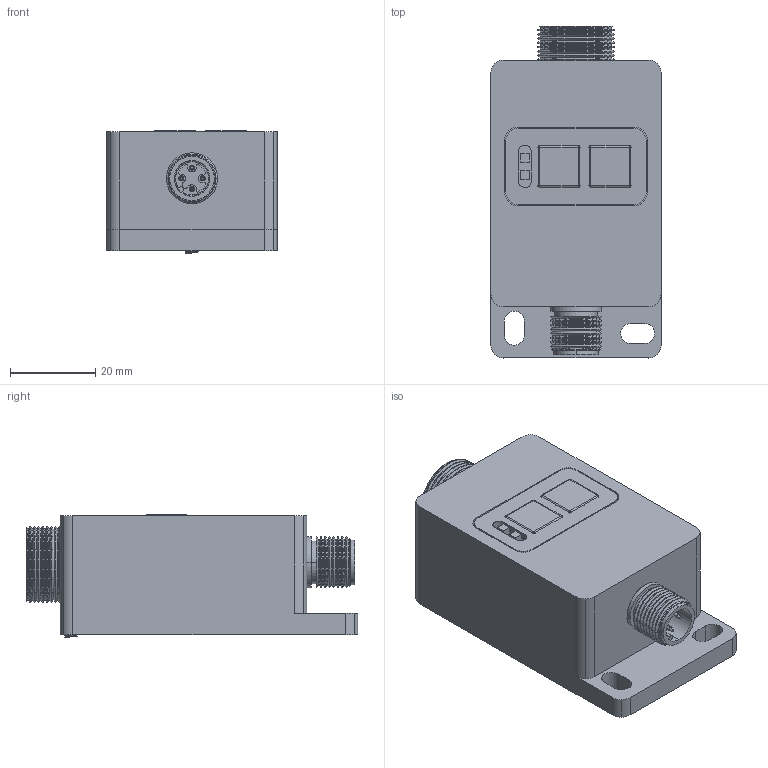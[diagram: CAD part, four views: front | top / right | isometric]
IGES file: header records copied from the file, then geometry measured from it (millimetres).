
Global section: file name: Filename.iges; native system: Open CASCADE 7.6; preprocessor: Open CASCADE IGES processor 7.6; date: 20240610.103234; units: millimetre
Bounding box: 40 x 78 x 28.91 mm (x, y, z)
Surface area: 21515.5 mm2 (no closed solid volume)
Topology: 0 solids, 0 shells, 690 faces, 3516 edges, 3492 vertices
Faces by surface type: revolution 581, plane 97, bspline 12
